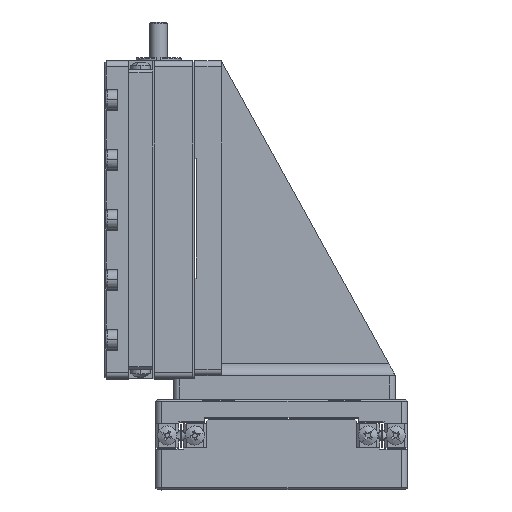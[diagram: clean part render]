
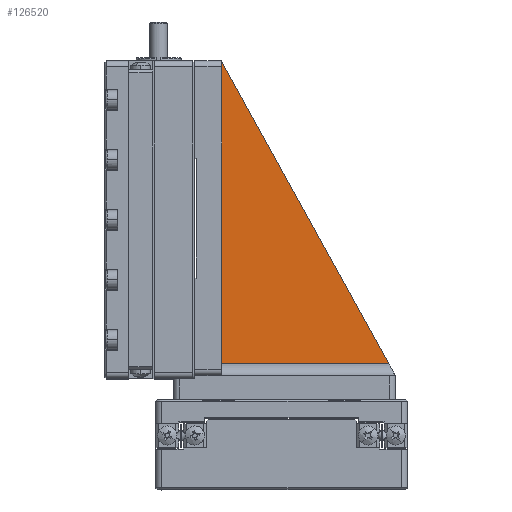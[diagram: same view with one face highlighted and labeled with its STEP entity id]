
A CAD part, top view. The second image highlights one B-rep face of the part: STEP entity #126520.
In plain terms, the highlighted planar face has unit normal (0, 0, 1).
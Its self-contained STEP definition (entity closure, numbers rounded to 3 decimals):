
#676 = VECTOR ( 'NONE', #91868, 1000. ) ;
#5857 = LINE ( 'NONE', #9978, #84565 ) ;
#9098 = DIRECTION ( 'NONE',  ( 0.484, -0.875, 0. ) ) ;
#9978 = CARTESIAN_POINT ( 'NONE',  ( 13.921, 20.064, 2.501 ) ) ;
#18684 = CARTESIAN_POINT ( 'NONE',  ( -4.579, 16.064, 2.501 ) ) ;
#24609 = VECTOR ( 'NONE', #98023, 1000. ) ;
#25027 = EDGE_CURVE ( 'NONE', #57364, #43950, #5857, .T. ) ;
#26851 = CARTESIAN_POINT ( 'NONE',  ( -15.079, 22.064, 2.501 ) ) ;
#43950 = VERTEX_POINT ( 'NONE', #131488 ) ;
#45486 = LINE ( 'NONE', #46036, #24609 ) ;
#46036 = CARTESIAN_POINT ( 'NONE',  ( 13.921, 22.064, 2.501 ) ) ;
#55356 = LINE ( 'NONE', #103468, #676 ) ;
#56174 = EDGE_CURVE ( 'NONE', #100225, #43950, #45486, .T. ) ;
#57364 = VERTEX_POINT ( 'NONE', #100240 ) ;
#67810 = ORIENTED_EDGE ( 'NONE', *, *, #25027, .F. ) ;
#84565 = VECTOR ( 'NONE', #9098, 1000. ) ;
#91868 = DIRECTION ( 'NONE',  ( 0., 1., 0. ) ) ;
#92288 = DIRECTION ( 'NONE',  ( 0., 0., -1. ) ) ;
#98023 = DIRECTION ( 'NONE',  ( 1., 0., 0. ) ) ;
#100225 = VERTEX_POINT ( 'NONE', #26851 ) ;
#100240 = CARTESIAN_POINT ( 'NONE',  ( -15.079, 72.564, 2.501 ) ) ;
#103289 = AXIS2_PLACEMENT_3D ( 'NONE', #18684, #92288, #111155 ) ;
#103468 = CARTESIAN_POINT ( 'NONE',  ( -15.079, 72.564, 2.501 ) ) ;
#111155 = DIRECTION ( 'NONE',  ( -1., 0., 0. ) ) ;
#115583 = ORIENTED_EDGE ( 'NONE', *, *, #56174, .T. ) ;
#118834 = ORIENTED_EDGE ( 'NONE', *, *, #133117, .F. ) ;
#126520 = ADVANCED_FACE ( 'NONE', ( #131910 ), #130523, .F. ) ;
#130523 = PLANE ( 'NONE',  #103289 ) ;
#130693 = EDGE_LOOP ( 'NONE', ( #118834, #115583, #67810 ) ) ;
#131488 = CARTESIAN_POINT ( 'NONE',  ( 12.816, 22.064, 2.501 ) ) ;
#131910 = FACE_OUTER_BOUND ( 'NONE', #130693, .T. ) ;
#133117 = EDGE_CURVE ( 'NONE', #100225, #57364, #55356, .T. ) ;
